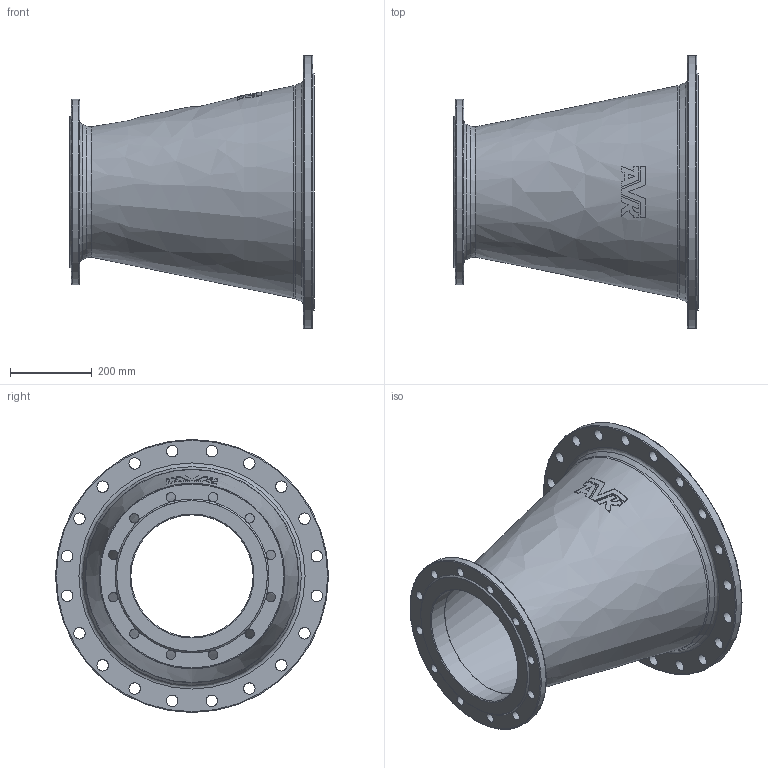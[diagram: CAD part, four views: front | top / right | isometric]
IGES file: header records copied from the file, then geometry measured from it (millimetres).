
Start section: SolidWorks IGES file using analytic representation for surfaces
Global section: file name: \\avksan2\techshare\PBM outline export from Enovia\O_712_2210_DN500_DN300_0X_REV01.igs; native system: SolidWorks 2022; preprocessor: SolidWorks 2022; author: pbm; date: 240808.093738; units: millimetre
Bounding box: 600 x 670 x 670 mm (x, y, z)
Surface area: 2045665.2 mm2 (no closed solid volume)
Topology: 0 solids, 0 shells, 113 faces, 568 edges, 514 vertices
Faces by surface type: revolution 60, bspline 53
